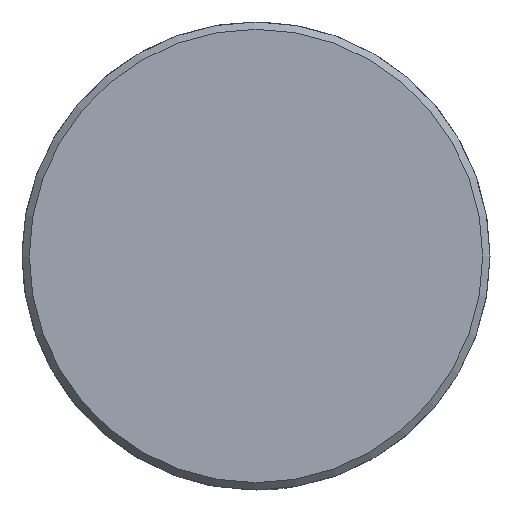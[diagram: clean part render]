
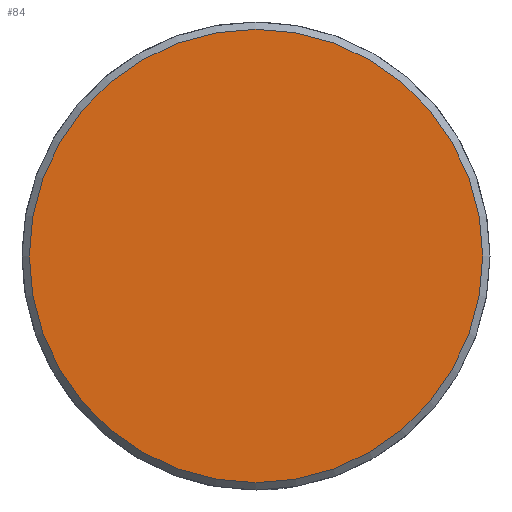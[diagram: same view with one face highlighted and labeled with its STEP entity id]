
A CAD part, front view. The second image highlights one B-rep face of the part: STEP entity #84.
In plain terms, the highlighted planar face has unit normal (0, -1, 0).
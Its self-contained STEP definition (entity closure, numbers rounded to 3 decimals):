
#84 = ADVANCED_FACE( '', ( #113 ), #114, .F. );
#113 = FACE_OUTER_BOUND( '', #148, .T. );
#114 = PLANE( '', #149 );
#148 = EDGE_LOOP( '', ( #235 ) );
#149 = AXIS2_PLACEMENT_3D( '', #236, #237, #238 );
#235 = ORIENTED_EDGE( '', *, *, #314, .T. );
#236 = CARTESIAN_POINT( '', ( 15.5, 0., 0. ) );
#237 = DIRECTION( '', ( 0., 1., 0. ) );
#238 = DIRECTION( '', ( 0., 0., 1. ) );
#314 = EDGE_CURVE( '', #373, #373, #374, .T. );
#373 = VERTEX_POINT( '', #542 );
#374 = CIRCLE( '', #543, 15.5 );
#542 = CARTESIAN_POINT( '', ( 0., 0., -15.5 ) );
#543 = AXIS2_PLACEMENT_3D( '', #608, #609, #610 );
#608 = CARTESIAN_POINT( '', ( 0., 0., 0. ) );
#609 = DIRECTION( '', ( 0., -1., 0. ) );
#610 = DIRECTION( '', ( 0., 0., -1. ) );
